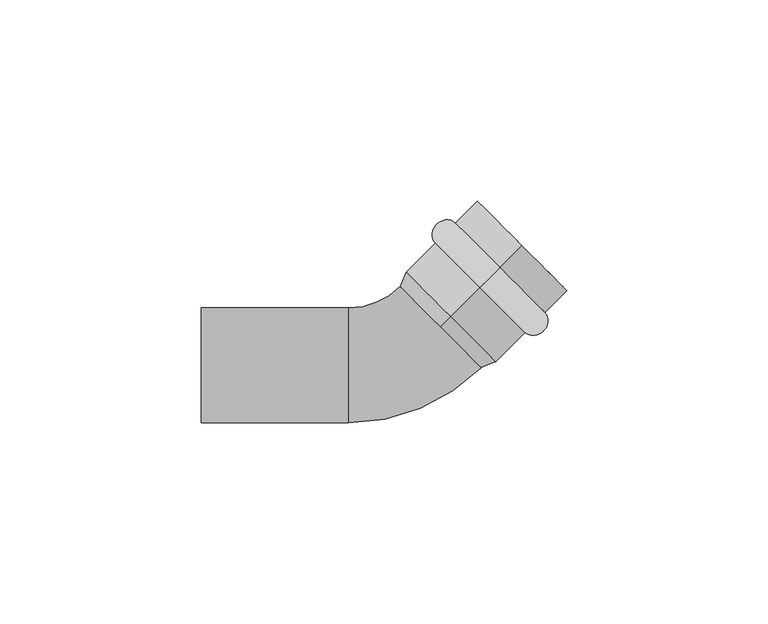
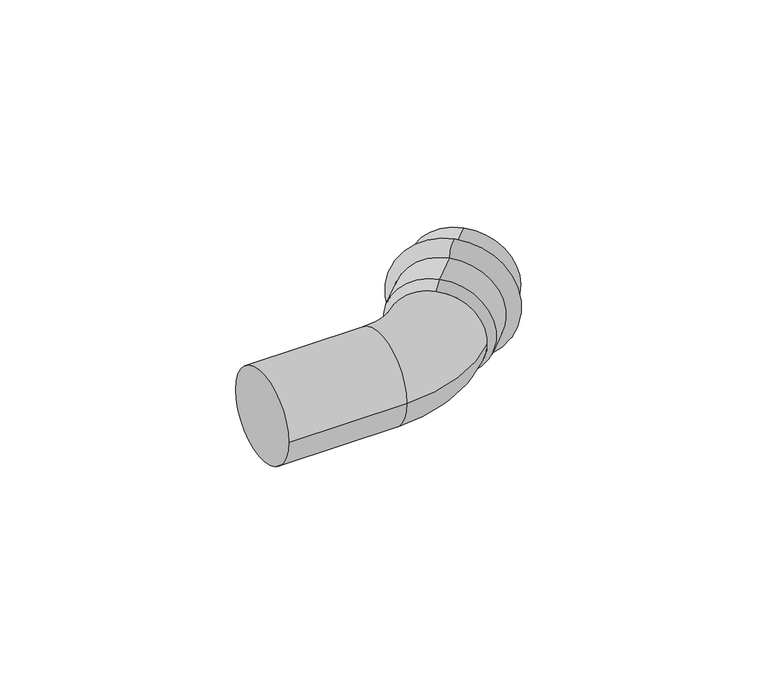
"""IFC4 building model written with IfcOpenShell, lengths in millimetres: pipe fitting geometry, РЕХАУ_Пресс Отвод-вставка : 28 x 45°."""

from ifc_helpers import new_model, si_unit, point, frame, origin, place, context, project, spatial, polyline, circle_curve, ellipse_curve, trimmed, source, transform, mapped, element, save
from ifc_brep_helpers import plane_surface, cylinder_surface, revolved_surface, advanced_brep


def pipe_fitting_b6892413(model_context):
    return source(origin(), model_context, "Body", "AdvancedBrep", [
        advanced_brep(
        [(74.2537626, 24.2537626, 15.75), (74.2537626, 24.2537626, -15.75), (69.3040151, 19.3040151, -15.75), (69.3040151, 19.3040151, 15.75)],
        [
            (0, 1, circle_curve(frame((74.2537626, 24.2537626, 0.0), z_axis=(0.7071067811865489, 0.7071067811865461, 0.0), x_axis=(0.0, 0.0, -1.0)), 15.75)),
            (1, 2),
            (2, 3, circle_curve(frame((69.3040151, 19.3040151, 0.0), z_axis=(-0.7071067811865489, -0.7071067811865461, 0.0), x_axis=(0.0, 0.0, -1.0)), 15.75)),
            (3, 0),
            (1, 0, circle_curve(frame((74.2537626, 24.2537626, 0.0), z_axis=(0.7071067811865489, 0.7071067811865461, 0.0), x_axis=(0.0, 0.0, -1.0)), 15.75)),
            (3, 2, circle_curve(frame((69.3040151, 19.3040151, 0.0), z_axis=(-0.7071067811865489, -0.7071067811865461, 0.0), x_axis=(0.0, 0.0, -1.0)), 15.75)),
            (2, 1, ellipse_curve(frame((71.7788889, 21.7788889, -15.75), z_axis=(0.7071067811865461, -0.7071067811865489, 0.0), x_axis=(0.7071067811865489, 0.7071067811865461, 0.0)), 3.5, 3.1)),
            (0, 3, ellipse_curve(frame((71.7788889, 21.7788889, 15.75), z_axis=(0.7071067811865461, -0.7071067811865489, 0.0), x_axis=(0.7071067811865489, 0.7071067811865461, 0.0)), 3.5, 3.1)),
        ],
        [
            revolved_surface(polyline([(69.30401510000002, 19.304015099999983, -15.75), (74.25376260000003, 24.253762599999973, -15.75)]), (60.111627, 10.111627, 0.0), (-0.7071067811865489, -0.7071067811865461, 0.0)),
            revolved_surface(trimmed(ellipse_curve(frame((71.7788889, 21.7788889, -15.75), z_axis=(-0.7071067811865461, 0.7071067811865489, 0.0), x_axis=(0.7071067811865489, 0.7071067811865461, 0.0)), 3.5, 3.1), [point((74.2537626, 24.2537626, -15.75))], [point((69.3040151, 19.3040151, -15.75))], True, "CARTESIAN"), (60.111627, 10.111627, 0.0), (-0.7071067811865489, -0.7071067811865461, 0.0)),
        ],
        [
            (0, [[1, 2, 3, 4]]),
            (0, [[5, -4, 6, -2]]),
            (1, [[-3, 7, -1, 8]]),
            (1, [[-6, -8, -5, -7]]),
        ],
    ),
        advanced_brep(
        [(59.5220565, 9.5220565, 14.25), (59.5220565, 9.5220565, -14.25), (62.0208153, 12.0208153, -15.75), (62.0208153, 12.0208153, 15.75), (79.6984848, 29.6984848, 14.25), (79.6984848, 29.6984848, -14.25), (79.6984848, 29.6984848, 15.75), (79.6984848, 29.6984848, -15.75)],
        [
            (0, 1, circle_curve(frame((59.5220565, 9.5220565, 0.0), z_axis=(0.7071067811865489, 0.7071067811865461, 0.0), x_axis=(0.0, 0.0, -1.0)), 14.25)),
            (1, 2),
            (2, 3, circle_curve(frame((62.0208153, 12.0208153, 0.0), z_axis=(-0.7071067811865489, -0.7071067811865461, 0.0), x_axis=(0.0, 0.0, -1.0)), 15.75)),
            (3, 0),
            (1, 0, circle_curve(frame((59.5220565, 9.5220565, 0.0), z_axis=(0.7071067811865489, 0.7071067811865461, 0.0), x_axis=(0.0, 0.0, -1.0)), 14.25)),
            (3, 2, circle_curve(frame((62.0208153, 12.0208153, 0.0), z_axis=(-0.7071067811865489, -0.7071067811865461, 0.0), x_axis=(0.0, 0.0, -1.0)), 15.75)),
            (4, 5, circle_curve(frame((79.6984848, 29.6984848, 0.0), z_axis=(0.7071067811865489, 0.7071067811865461, 0.0), x_axis=(0.0, 0.0, -1.0)), 14.25)),
            (5, 1),
            (0, 4),
            (5, 4, circle_curve(frame((79.6984848, 29.6984848, 0.0), z_axis=(0.7071067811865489, 0.7071067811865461, 0.0), x_axis=(0.0, 0.0, -1.0)), 14.25)),
            (6, 7, circle_curve(frame((79.6984848, 29.6984848, 0.0), z_axis=(0.7071067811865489, 0.7071067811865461, 0.0), x_axis=(0.0, 0.0, -1.0)), 15.75)),
            (7, 5),
            (4, 6),
            (7, 6, circle_curve(frame((79.6984848, 29.6984848, 0.0), z_axis=(0.7071067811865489, 0.7071067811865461, 0.0), x_axis=(0.0, 0.0, -1.0)), 15.75)),
            (2, 7),
            (6, 3),
        ],
        [
            revolved_surface(polyline([(62.0208153, 12.0208153, -15.75), (59.5220565, 9.5220565, -14.25)]), (60.111627, 10.111627, 0.0), (-0.7071067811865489, -0.7071067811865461, 0.0)),
            revolved_surface(polyline([(59.5220565, 9.522056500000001, -14.25), (79.69848480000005, 29.69848479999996, -14.25)]), (60.111627, 10.111627, 0.0), (-0.7071067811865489, -0.7071067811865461, 0.0)),
            plane_surface(frame((79.6984848, 29.6984848, 0.0), z_axis=(0.7071067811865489, 0.7071067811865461, 0.0), x_axis=(0.0, 0.0, -1.0))),
            cylinder_surface(frame((60.111627, 10.111627, 0.0), z_axis=(-0.7071067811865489, -0.7071067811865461, 0.0), x_axis=(0.0, 0.0, -1.0)), 15.75),
        ],
        [
            (0, [[1, 2, 3, 4]]),
            (0, [[5, -4, 6, -2]]),
            (1, [[7, 8, -1, 9]]),
            (1, [[10, -9, -5, -8]]),
            (2, [[11, 12, -7, 13]]),
            (2, [[14, -13, -10, -12]]),
            (3, [[-3, 15, -11, 16]]),
            (3, [[-6, -16, -14, -15]]),
        ],
    ),
        advanced_brep(
        [(0.0, -14.25, 0.0), (0.0, 14.25, 0.0), (36.5337785, -14.25, 0.0), (36.5337785, 14.25, 0.0), (49.4457849, 19.5983281, 0.0), (69.5983281, -0.5542151, 0.0), (72.0970869, 1.9445436, 0.0), (51.9445436, 22.0970869, 0.0)],
        [
            (0, 1, circle_curve(frame((0.0, 0.0, 0.0), z_axis=(-1.0, 0.0, 0.0), x_axis=(0.0, 1.0, 0.0)), 14.25)),
            (1, 0, circle_curve(frame((0.0, 0.0, 0.0), z_axis=(-1.0, 0.0, 0.0), x_axis=(0.0, 1.0, 0.0)), 14.25)),
            (0, 2),
            (2, 3, circle_curve(frame((36.5337785, 0.0, 0.0), z_axis=(-1.0, 0.0, 0.0), x_axis=(0.0, 1.0, 0.0)), 14.25)),
            (3, 1),
            (3, 2, circle_curve(frame((36.5337785, 0.0, 0.0), z_axis=(-1.0, 0.0, 0.0), x_axis=(0.0, 1.0, 0.0)), 14.25)),
            (4, 3, circle_curve(frame((36.5337785, 32.5103345, 0.0), z_axis=(0.0, 0.0, -1.0), x_axis=(0.0, -1.0, 0.0)), 18.2603345)),
            (2, 5, circle_curve(frame((36.5337785, 32.5103345, 0.0), z_axis=(0.0, 0.0, 1.0), x_axis=(0.0, -1.0, 0.0)), 46.7603345)),
            (5, 4, circle_curve(frame((59.5220565, 9.5220565, 0.0), z_axis=(-0.7071067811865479, -0.7071067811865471, 0.0), x_axis=(-0.7071067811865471, 0.7071067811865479, 0.0)), 14.25)),
            (4, 5, circle_curve(frame((59.5220565, 9.5220565, 0.0), z_axis=(-0.7071067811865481, -0.7071067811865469, 0.0), x_axis=(-0.7071067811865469, 0.7071067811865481, 0.0)), 14.25)),
            (6, 7, circle_curve(frame((62.0208153, 12.0208153, 0.0), z_axis=(0.7071067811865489, 0.7071067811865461, 0.0), x_axis=(-0.7071067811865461, 0.7071067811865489, 0.0)), 14.25)),
            (7, 6, circle_curve(frame((62.0208153, 12.0208153, 0.0), z_axis=(0.7071067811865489, 0.7071067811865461, 0.0), x_axis=(-0.7071067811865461, 0.7071067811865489, 0.0)), 14.25)),
            (5, 6),
            (7, 4),
        ],
        [
            plane_surface(frame((0.0, 0.0, 0.0), z_axis=(-1.0, 0.0, 0.0), x_axis=(0.0, 0.0, 1.0))),
            cylinder_surface(frame((0.0, 0.0, 0.0), z_axis=(-1.0, 0.0, 0.0), x_axis=(0.0, 1.0, 0.0)), 14.25),
            revolved_surface(trimmed(ellipse_curve(frame((36.5337785, 0.0, 0.0), z_axis=(-1.0, 0.0, 0.0), x_axis=(0.0, 1.0, 0.0)), 14.25, 14.25), [point((36.5337785, -14.25, 0.0))], [point((36.5337785, 14.25, 0.0))], True, "CARTESIAN"), (36.5337785, 32.5103345, 0.0), (0.0, 0.0, 1.0)),
            revolved_surface(trimmed(ellipse_curve(frame((36.5337785, 0.0, 0.0), z_axis=(-1.0, 0.0, 0.0), x_axis=(0.0, 1.0, 0.0)), 14.25, 14.25), [point((36.5337785, 14.25, 0.0))], [point((36.5337785, -14.25, 0.0))], True, "CARTESIAN"), (36.5337785, 32.5103345, 0.0), (0.0, 0.0, 1.0)),
            plane_surface(frame((62.0208153, 12.0208153, 0.0), z_axis=(0.7071067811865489, 0.7071067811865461, 0.0), x_axis=(0.0, 0.0, 1.0))),
            cylinder_surface(frame((59.5220565, 9.5220565, 0.0), z_axis=(-0.7071067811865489, -0.7071067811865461, 0.0), x_axis=(-0.7071067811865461, 0.7071067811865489, 0.0)), 14.25),
        ],
        [
            (0, [[1, 2]]),
            (1, [[-1, 3, 4, 5]]),
            (1, [[-2, -5, 6, -3]]),
            (2, [[7, -4, 8, 9]]),
            (3, [[-8, -6, -7, 10]]),
            (4, [[11, 12]]),
            (5, [[-9, 13, -12, 14]]),
            (5, [[-10, -14, -11, -13]]),
        ],
    ),
    ])


if __name__ == "__main__":
    model = new_model("IFC4")
    model_context = context("Model", 3, world=origin())
    ifc_project = project(units=[si_unit("LENGTHUNIT", "METRE", prefix="MILLI")], contexts=[model_context])
    site = spatial("IfcSite", under=ifc_project)
    building = spatial("IfcBuilding", under=site)
    placement = place(None, origin())
    pipe_fitting_shape = pipe_fitting_b6892413(model_context)
    element("IfcPipeFitting", 1, ObjectType="РЕХАУ_Пресс Отвод-вставка : 28 x 45°", at=placement, inside=building, context=model_context, shape_type="MappedRepresentation", body=[
        mapped(pipe_fitting_shape, transform((0.0, 0.0, 0.0), x_axis=(1.0, 0.0, 0.0), y_axis=(0.0, 1.0, 0.0), z_axis=(0.0, 0.0, 1.0))),
    ])
    save(model, "model.ifc")
